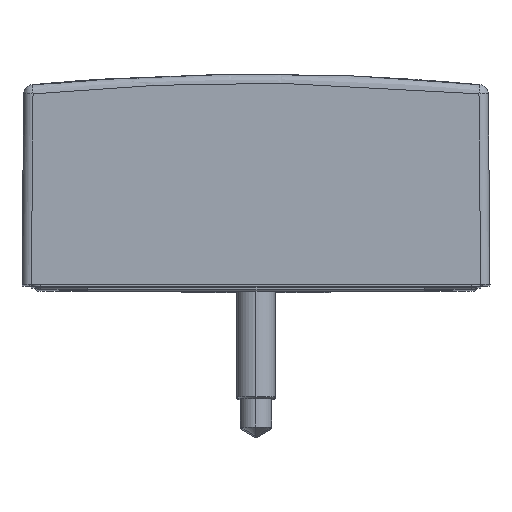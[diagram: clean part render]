
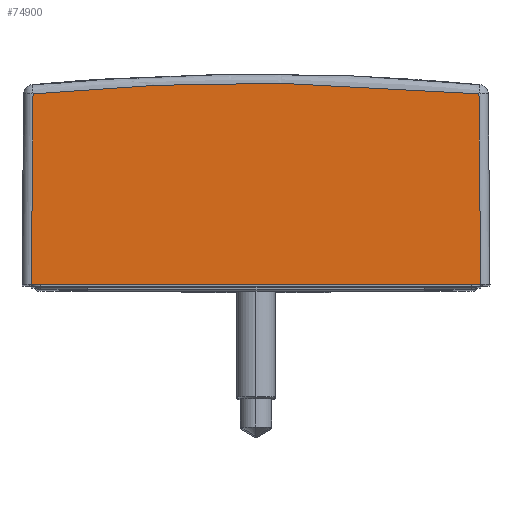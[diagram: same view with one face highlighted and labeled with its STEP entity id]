
A CAD part, top view. The second image highlights one B-rep face of the part: STEP entity #74900.
In plain terms, the highlighted planar face has unit normal (0, 0.009, 1).
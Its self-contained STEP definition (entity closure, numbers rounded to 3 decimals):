
#798 = ORIENTED_EDGE ( 'NONE', *, *, #24951, .T. ) ;
#1436 = VERTEX_POINT ( 'NONE', #37968 ) ;
#2472 = EDGE_CURVE ( 'NONE', #21335, #24537, #49382, .T. ) ;
#5776 = CARTESIAN_POINT ( 'NONE',  ( -24., 0.7, 60.25 ) ) ;
#5979 = FACE_OUTER_BOUND ( 'NONE', #84328, .T. ) ;
#9933 = VECTOR ( 'NONE', #95678, 1000. ) ;
#18437 = CARTESIAN_POINT ( 'NONE',  ( -25., 0.7, 60.25 ) ) ;
#20692 = DIRECTION ( 'NONE',  ( -0.009, -1., 0.009 ) ) ;
#21335 = VERTEX_POINT ( 'NONE', #57528 ) ;
#22829 = CARTESIAN_POINT ( 'NONE',  ( -24., 0.691, 60.25 ) ) ;
#24537 = VERTEX_POINT ( 'NONE', #5776 ) ;
#24951 = EDGE_CURVE ( 'NONE', #1436, #21335, #44609, .T. ) ;
#27084 = ORIENTED_EDGE ( 'NONE', *, *, #2472, .T. ) ;
#37435 = CARTESIAN_POINT ( 'NONE',  ( -25., 0.7, 60.25 ) ) ;
#37968 = CARTESIAN_POINT ( 'NONE',  ( 23.822, 21.067, 60.072 ) ) ;
#40524 = CARTESIAN_POINT ( 'NONE',  ( 24., 0.7, 60.25 ) ) ;
#42048 = EDGE_CURVE ( 'NONE', #56407, #1436, #45819, .T. ) ;
#43434 = VECTOR ( 'NONE', #69911, 1000. ) ;
#44609 =( BOUNDED_CURVE ( )  B_SPLINE_CURVE ( 3, ( #67578, #67048, #65742, #65428 ),
 .UNSPECIFIED., .F., .F. ) 
 B_SPLINE_CURVE_WITH_KNOTS ( ( 4, 4 ),
 ( 3.046, 3.237 ),
 .UNSPECIFIED. ) 
 CURVE ( )  GEOMETRIC_REPRESENTATION_ITEM ( )  RATIONAL_B_SPLINE_CURVE ( ( 1., 0.997, 0.997, 1. ) ) 
 REPRESENTATION_ITEM ( '' )  );
#44890 = DIRECTION ( 'NONE',  ( 0., -1., 0.009 ) ) ;
#45819 = LINE ( 'NONE', #95344, #9933 ) ;
#49382 = LINE ( 'NONE', #22829, #91706 ) ;
#51891 = PLANE ( 'NONE',  #52286 ) ;
#52286 = AXIS2_PLACEMENT_3D ( 'NONE', #37435, #89129, #44890 ) ;
#56407 = VERTEX_POINT ( 'NONE', #40524 ) ;
#57528 = CARTESIAN_POINT ( 'NONE',  ( -23.822, 21.067, 60.072 ) ) ;
#60238 = ORIENTED_EDGE ( 'NONE', *, *, #82962, .T. ) ;
#65428 = CARTESIAN_POINT ( 'NONE',  ( -23.822, 21.067, 60.072 ) ) ;
#65742 = CARTESIAN_POINT ( 'NONE',  ( -7.965, 22.591, 60.059 ) ) ;
#67048 = CARTESIAN_POINT ( 'NONE',  ( 7.965, 22.591, 60.059 ) ) ;
#67578 = CARTESIAN_POINT ( 'NONE',  ( 23.822, 21.067, 60.072 ) ) ;
#69911 = DIRECTION ( 'NONE',  ( 1., 0., 0. ) ) ;
#74900 = ADVANCED_FACE ( 'NONE', ( #5979 ), #51891, .T. ) ;
#82778 = LINE ( 'NONE', #18437, #43434 ) ;
#82962 = EDGE_CURVE ( 'NONE', #24537, #56407, #82778, .T. ) ;
#84328 = EDGE_LOOP ( 'NONE', ( #798, #27084, #60238, #93537 ) ) ;
#89129 = DIRECTION ( 'NONE',  ( 0., 0.009, 1. ) ) ;
#91706 = VECTOR ( 'NONE', #20692, 1000. ) ;
#93537 = ORIENTED_EDGE ( 'NONE', *, *, #42048, .T. ) ;
#95344 = CARTESIAN_POINT ( 'NONE',  ( 23.996, 1.128, 60.246 ) ) ;
#95678 = DIRECTION ( 'NONE',  ( -0.009, 1., -0.009 ) ) ;
